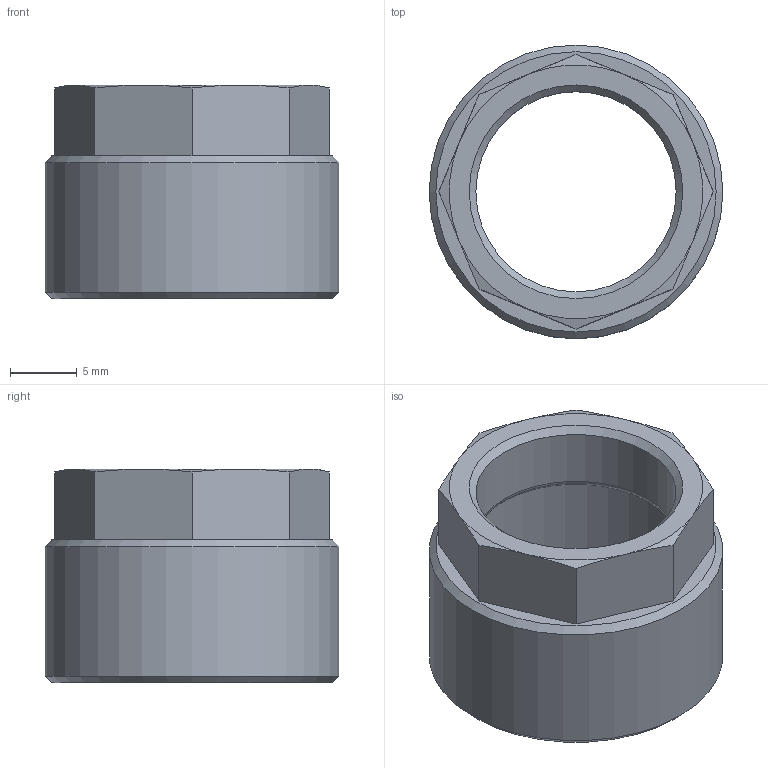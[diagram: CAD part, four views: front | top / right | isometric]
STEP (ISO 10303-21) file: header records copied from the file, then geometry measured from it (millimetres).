
FILE_DESCRIPTION(/* description */ (''),/* implementation_level */ '2;1');
FILE_NAME(/* name */ '17009_310_1512,5_M20X1_15.08.17',/* time_stamp */ '2017-08-15T10:59:50+02:00',/* author */ (''),/* organization */ (''),/* preprocessor_version */ 'ST-DEVELOPER v16.5',/* originating_system */ 'HiCAD 2016 2102.2 Build 618',/* authorisation */ '');
FILE_SCHEMA (('AUTOMOTIVE_DESIGN { 1 0 10303 214 1 1 1 1 }'));
Length unit declared in the file: millimetre
Products named in the file (2): Root; 17009
Assembly tree (1 placements, depth 2):
  Root
    17009
Bounding box: 22 x 22 x 16 mm (x, y, z)
Volume: 1753.5 mm3; surface area: 2234.7 mm2
Topology: 1 solids, 1 shells, 28 faces, 64 edges, 40 vertices
Faces by surface type: cone 13, plane 11, cylinder 3, torus 1
Full cylindrical faces by diameter (mm): 15 x1, 18.733 x1, 22 x1
Entity records: 1266 total; most frequent: DIRECTION 146, CARTESIAN_POINT 117, PRESENTATION_STYLE_ASSIGNMENT 103, COLOUR_RGB 103, DRAUGHTING_PRE_DEFINED_CURVE_FONT 102, CURVE_STYLE 102, OVER_RIDING_STYLED_ITEM 102, ORIENTED_EDGE 102
